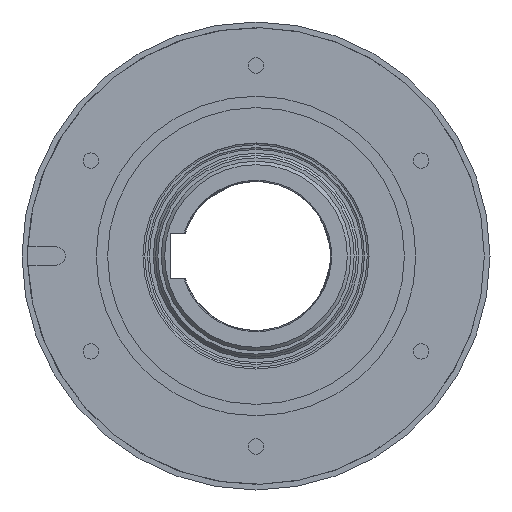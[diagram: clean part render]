
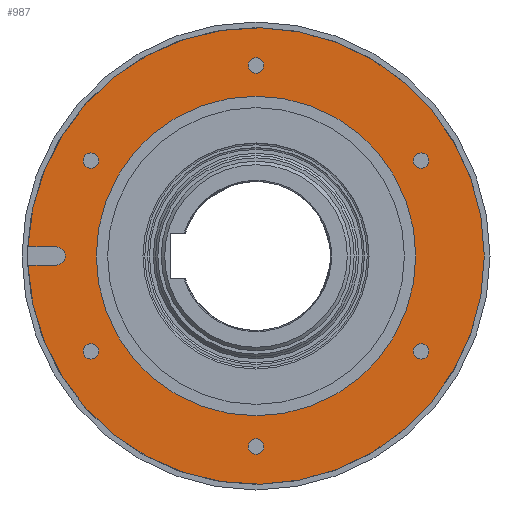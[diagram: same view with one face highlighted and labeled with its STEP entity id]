
A CAD part, left-side view. The second image highlights one B-rep face of the part: STEP entity #987.
In plain terms, the highlighted planar face has unit normal (-1, 0, 0).
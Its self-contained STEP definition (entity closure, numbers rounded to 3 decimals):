
#23 = EDGE_CURVE ( 'NONE', #1367, #1367, #975, .T. ) ;
#33 = FACE_BOUND ( 'NONE', #1656, .T. ) ;
#41 = CARTESIAN_POINT ( 'NONE',  ( 0., 72.313, -41.75 ) ) ;
#50 = EDGE_LOOP ( 'NONE', ( #1587 ) ) ;
#62 = DIRECTION ( 'NONE',  ( 0., 0., 1. ) ) ;
#76 = ORIENTED_EDGE ( 'NONE', *, *, #1850, .F. ) ;
#106 = AXIS2_PLACEMENT_3D ( 'NONE', #2055, #1046, #62 ) ;
#111 = VERTEX_POINT ( 'NONE', #670 ) ;
#127 = DIRECTION ( 'NONE',  ( 0., -1., 0. ) ) ;
#136 = FACE_BOUND ( 'NONE', #50, .T. ) ;
#141 = AXIS2_PLACEMENT_3D ( 'NONE', #895, #2082, #1061 ) ;
#145 = CARTESIAN_POINT ( 'NONE',  ( 0., 0., 83.5 ) ) ;
#152 = FACE_OUTER_BOUND ( 'NONE', #1792, .T. ) ;
#154 = ORIENTED_EDGE ( 'NONE', *, *, #213, .F. ) ;
#156 = EDGE_CURVE ( 'NONE', #1146, #427, #176, .T. ) ;
#176 = LINE ( 'NONE', #697, #2048 ) ;
#188 = VECTOR ( 'NONE', #773, 1000. ) ;
#213 = EDGE_CURVE ( 'NONE', #698, #698, #228, .T. ) ;
#228 = CIRCLE ( 'NONE', #483, 3.4 ) ;
#251 = EDGE_LOOP ( 'NONE', ( #154 ) ) ;
#286 = CARTESIAN_POINT ( 'NONE',  ( 0., -72.313, -41.75 ) ) ;
#307 = VERTEX_POINT ( 'NONE', #727 ) ;
#335 = ORIENTED_EDGE ( 'NONE', *, *, #156, .F. ) ;
#344 = CARTESIAN_POINT ( 'NONE',  ( 0., 72.313, 45.15 ) ) ;
#405 = EDGE_LOOP ( 'NONE', ( #76 ) ) ;
#414 = VERTEX_POINT ( 'NONE', #752 ) ;
#417 = VERTEX_POINT ( 'NONE', #1302 ) ;
#427 = VERTEX_POINT ( 'NONE', #554 ) ;
#453 = AXIS2_PLACEMENT_3D ( 'NONE', #983, #457, #627 ) ;
#457 = DIRECTION ( 'NONE',  ( -1., 0., 0. ) ) ;
#471 = ORIENTED_EDGE ( 'NONE', *, *, #865, .F. ) ;
#483 = AXIS2_PLACEMENT_3D ( 'NONE', #552, #1222, #721 ) ;
#506 = AXIS2_PLACEMENT_3D ( 'NONE', #41, #2042, #1200 ) ;
#522 = EDGE_CURVE ( 'NONE', #427, #2000, #1443, .T. ) ;
#530 = FACE_BOUND ( 'NONE', #2123, .T. ) ;
#542 = CIRCLE ( 'NONE', #1231, 100. ) ;
#552 = CARTESIAN_POINT ( 'NONE',  ( 0., 72.313, 41.75 ) ) ;
#554 = CARTESIAN_POINT ( 'NONE',  ( 0., 87.5, -4. ) ) ;
#557 = PLANE ( 'NONE',  #141 ) ;
#566 = DIRECTION ( 'NONE',  ( -1., 0., 0. ) ) ;
#577 = CARTESIAN_POINT ( 'NONE',  ( 0., 87.5, 4. ) ) ;
#627 = DIRECTION ( 'NONE',  ( 0., -1., 0. ) ) ;
#670 = CARTESIAN_POINT ( 'NONE',  ( 0., 72.313, -38.35 ) ) ;
#691 = ORIENTED_EDGE ( 'NONE', *, *, #1632, .F. ) ;
#697 = CARTESIAN_POINT ( 'NONE',  ( 0., 87.5, -4. ) ) ;
#698 = VERTEX_POINT ( 'NONE', #344 ) ;
#721 = DIRECTION ( 'NONE',  ( 0., 0., 1. ) ) ;
#727 = CARTESIAN_POINT ( 'NONE',  ( 0., 99.92, 4. ) ) ;
#742 = FACE_BOUND ( 'NONE', #405, .T. ) ;
#746 = ORIENTED_EDGE ( 'NONE', *, *, #824, .F. ) ;
#752 = CARTESIAN_POINT ( 'NONE',  ( 0., 0., -80.1 ) ) ;
#773 = DIRECTION ( 'NONE',  ( 0., 1., 0. ) ) ;
#816 = CARTESIAN_POINT ( 'NONE',  ( 0., 99.92, -4. ) ) ;
#824 = EDGE_CURVE ( 'NONE', #111, #111, #1822, .T. ) ;
#836 = CIRCLE ( 'NONE', #2032, 3.4 ) ;
#853 = ORIENTED_EDGE ( 'NONE', *, *, #2154, .F. ) ;
#865 = EDGE_CURVE ( 'NONE', #417, #417, #1907, .T. ) ;
#895 = CARTESIAN_POINT ( 'NONE',  ( 0., -70., 0. ) ) ;
#931 = CARTESIAN_POINT ( 'NONE',  ( 0., -72.313, 45.15 ) ) ;
#947 = CARTESIAN_POINT ( 'NONE',  ( 0., 0., 86.9 ) ) ;
#975 = CIRCLE ( 'NONE', #453, 70. ) ;
#983 = CARTESIAN_POINT ( 'NONE',  ( 0., 0., 0. ) ) ;
#987 = ADVANCED_FACE ( 'NONE', ( #136, #530, #1839, #33, #2041, #742, #152, #1490 ), #557, .T. ) ;
#1018 = ORIENTED_EDGE ( 'NONE', *, *, #2067, .T. ) ;
#1046 = DIRECTION ( 'NONE',  ( -1., 0., 0. ) ) ;
#1061 = DIRECTION ( 'NONE',  ( 0., -1., 0. ) ) ;
#1065 = CIRCLE ( 'NONE', #106, 3.4 ) ;
#1104 = VERTEX_POINT ( 'NONE', #931 ) ;
#1130 = CARTESIAN_POINT ( 'NONE',  ( 0., 0., 0. ) ) ;
#1146 = VERTEX_POINT ( 'NONE', #816 ) ;
#1175 = EDGE_LOOP ( 'NONE', ( #1194 ) ) ;
#1194 = ORIENTED_EDGE ( 'NONE', *, *, #23, .F. ) ;
#1200 = DIRECTION ( 'NONE',  ( 0., 0., 1. ) ) ;
#1222 = DIRECTION ( 'NONE',  ( -1., 0., 0. ) ) ;
#1231 = AXIS2_PLACEMENT_3D ( 'NONE', #1130, #1635, #127 ) ;
#1297 = EDGE_CURVE ( 'NONE', #1104, #1104, #1065, .T. ) ;
#1302 = CARTESIAN_POINT ( 'NONE',  ( 0., -72.313, -38.35 ) ) ;
#1318 = EDGE_LOOP ( 'NONE', ( #853 ) ) ;
#1367 = VERTEX_POINT ( 'NONE', #1502 ) ;
#1421 = AXIS2_PLACEMENT_3D ( 'NONE', #1592, #1765, #1438 ) ;
#1434 = DIRECTION ( 'NONE',  ( 0., 0., 1. ) ) ;
#1438 = DIRECTION ( 'NONE',  ( 0., -1., 0. ) ) ;
#1443 = CIRCLE ( 'NONE', #1421, 4. ) ;
#1476 = DIRECTION ( 'NONE',  ( -1., 0., 0. ) ) ;
#1490 = FACE_BOUND ( 'NONE', #1175, .T. ) ;
#1502 = CARTESIAN_POINT ( 'NONE',  ( 0., -70., 0. ) ) ;
#1538 = DIRECTION ( 'NONE',  ( 0., -1., 0. ) ) ;
#1587 = ORIENTED_EDGE ( 'NONE', *, *, #1297, .F. ) ;
#1592 = CARTESIAN_POINT ( 'NONE',  ( 0., 87.5, 0. ) ) ;
#1632 = EDGE_CURVE ( 'NONE', #2000, #307, #1815, .T. ) ;
#1635 = DIRECTION ( 'NONE',  ( -1., 0., 0. ) ) ;
#1656 = EDGE_LOOP ( 'NONE', ( #746 ) ) ;
#1743 = DIRECTION ( 'NONE',  ( 0., 0., 1. ) ) ;
#1765 = DIRECTION ( 'NONE',  ( -1., 0., 0. ) ) ;
#1784 = DIRECTION ( 'NONE',  ( -1., 0., 0. ) ) ;
#1792 = EDGE_LOOP ( 'NONE', ( #335, #1018, #691, #1998 ) ) ;
#1798 = AXIS2_PLACEMENT_3D ( 'NONE', #286, #1784, #1434 ) ;
#1814 = CARTESIAN_POINT ( 'NONE',  ( 0., 0., -83.5 ) ) ;
#1815 = LINE ( 'NONE', #2137, #188 ) ;
#1821 = DIRECTION ( 'NONE',  ( 0., 0., 1. ) ) ;
#1822 = CIRCLE ( 'NONE', #506, 3.4 ) ;
#1839 = FACE_BOUND ( 'NONE', #1318, .T. ) ;
#1850 = EDGE_CURVE ( 'NONE', #2049, #2049, #2177, .T. ) ;
#1865 = AXIS2_PLACEMENT_3D ( 'NONE', #145, #566, #1743 ) ;
#1907 = CIRCLE ( 'NONE', #1798, 3.4 ) ;
#1998 = ORIENTED_EDGE ( 'NONE', *, *, #522, .F. ) ;
#2000 = VERTEX_POINT ( 'NONE', #577 ) ;
#2032 = AXIS2_PLACEMENT_3D ( 'NONE', #1814, #1476, #1821 ) ;
#2041 = FACE_BOUND ( 'NONE', #251, .T. ) ;
#2042 = DIRECTION ( 'NONE',  ( -1., 0., 0. ) ) ;
#2048 = VECTOR ( 'NONE', #1538, 1000. ) ;
#2049 = VERTEX_POINT ( 'NONE', #947 ) ;
#2055 = CARTESIAN_POINT ( 'NONE',  ( 0., -72.313, 41.75 ) ) ;
#2067 = EDGE_CURVE ( 'NONE', #1146, #307, #542, .T. ) ;
#2082 = DIRECTION ( 'NONE',  ( -1., 0., 0. ) ) ;
#2123 = EDGE_LOOP ( 'NONE', ( #471 ) ) ;
#2137 = CARTESIAN_POINT ( 'NONE',  ( 0., 87.5, 4. ) ) ;
#2154 = EDGE_CURVE ( 'NONE', #414, #414, #836, .T. ) ;
#2177 = CIRCLE ( 'NONE', #1865, 3.4 ) ;
